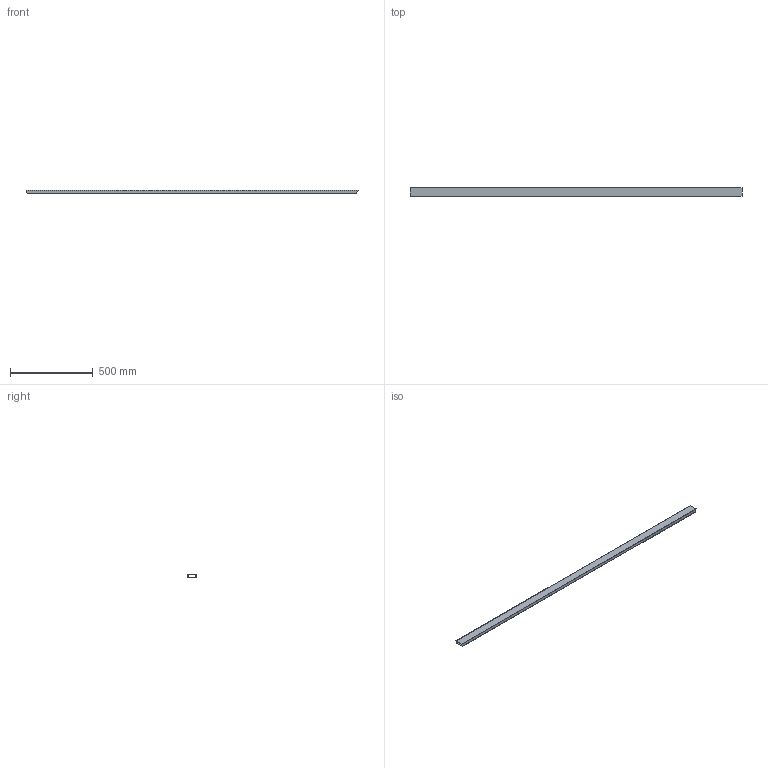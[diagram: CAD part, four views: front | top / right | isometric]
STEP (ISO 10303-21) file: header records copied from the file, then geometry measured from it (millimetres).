
FILE_DESCRIPTION(/* description */ (''),/* implementation_level */ '2;1');
FILE_NAME(/* name */ 'Pos120-Koker 50x20x2 EN 10219-2-S235JRH-1st',/* time_stamp */ '2024-08-06T13:49:48+02:00',/* author */ (''),/* organization */ (''),/* preprocessor_version */ 'ST-DEVELOPER v16.5',/* originating_system */ 'HiCAD 2024 2901.2 Build 361',/* authorisation */ '');
FILE_SCHEMA (('AUTOMOTIVE_DESIGN { 1 0 10303 214 1 1 1 1 }'));
Length unit declared in the file: millimetre
Products named in the file (1): Pos120-Koker 50x20x2 EN 10219-2-S235JRH-1st
Bounding box: 2007.14 x 50 x 20 mm (x, y, z)
Volume: 527689.9 mm3; surface area: 528262.5 mm2
Topology: 1 solids, 1 shells, 10 faces, 24 edges, 16 vertices
Faces by surface type: plane 10
Entity records: 550 total; most frequent: CARTESIAN_POINT 50, PRESENTATION_STYLE_ASSIGNMENT 49, COLOUR_RGB 49, DRAUGHTING_PRE_DEFINED_CURVE_FONT 48, CURVE_STYLE 48, OVER_RIDING_STYLED_ITEM 48, ORIENTED_EDGE 48, DIRECTION 44
